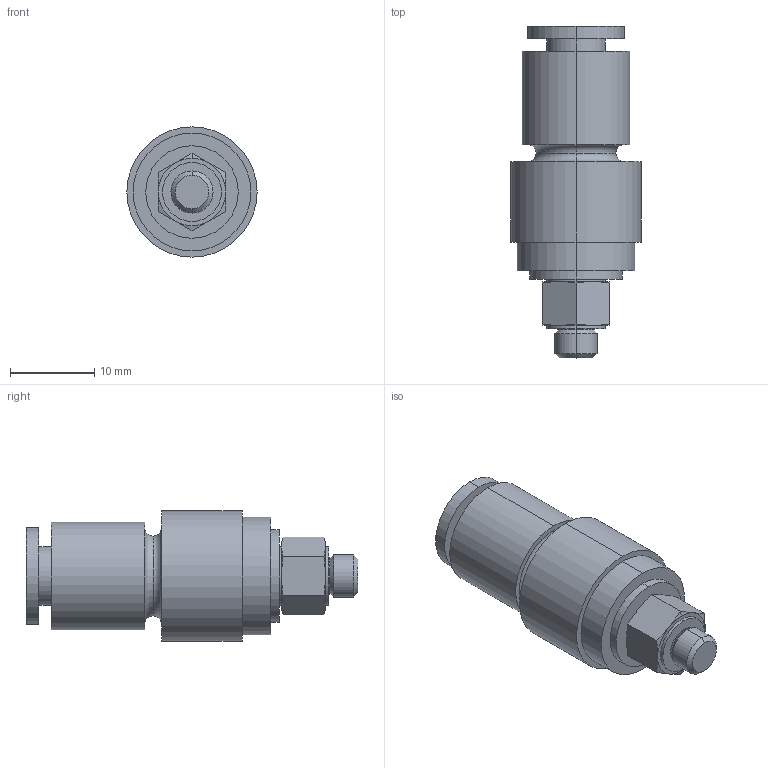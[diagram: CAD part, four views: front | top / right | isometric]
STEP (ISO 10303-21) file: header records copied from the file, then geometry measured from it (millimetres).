
FILE_DESCRIPTION (( 'STEP AP203' ), '1' );
FILE_NAME ('FKXH06-M5.STEP', '2022-04-18T15:10:19', ( '' ), ( '' ), 'SwSTEP 2.0', 'SolidWorks 2019', '' );
FILE_SCHEMA (( 'CONFIG_CONTROL_DESIGN' ));
Length unit declared in the file: millimetre
Products named in the file (1): FKXH06-M5
Bounding box: 15.5 x 39.5 x 15.5 mm (x, y, z)
Volume: 4126.9 mm3; surface area: 2414.1 mm2
Topology: 1 solids, 1 shells, 64 faces, 130 edges, 80 vertices
Faces by surface type: cylinder 22, plane 20, cone 18, torus 4
Entity records: 1979 total; most frequent: CARTESIAN_POINT 539, DIRECTION 308, ORIENTED_EDGE 260, AXIS2_PLACEMENT_3D 137, EDGE_CURVE 130, VERTEX_POINT 80, EDGE_LOOP 76, CIRCLE 72
